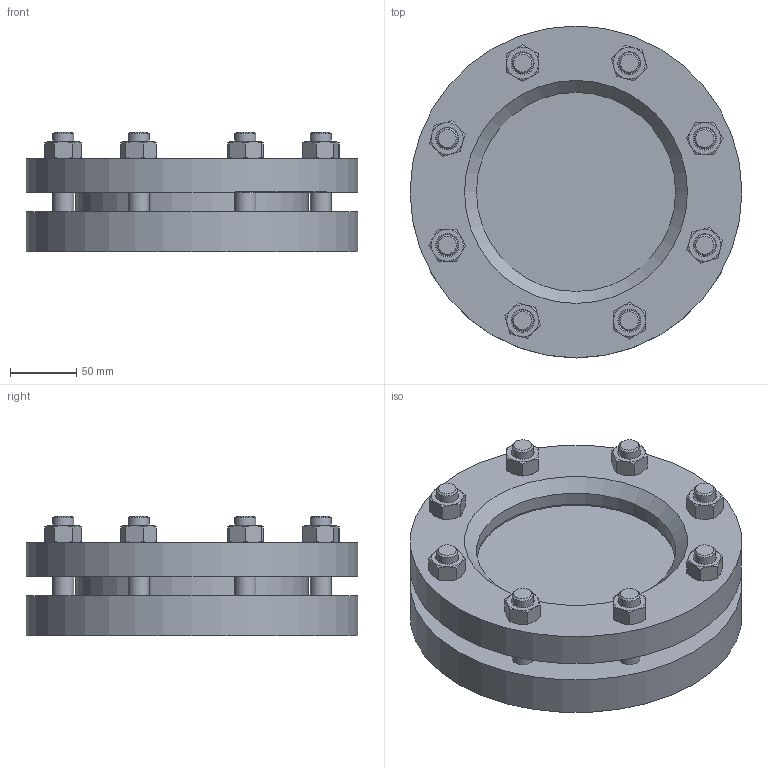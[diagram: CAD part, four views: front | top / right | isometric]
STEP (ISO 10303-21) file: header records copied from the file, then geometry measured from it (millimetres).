
FILE_DESCRIPTION(/* description */ ('Unknown'),/* implementation_level */ '2;1');
FILE_NAME(/* name */ 'Armatur 28120 DN 125 PN16',/* time_stamp */ '2016-08-08T07:28:45+02:00',/* author */ ('Unknown'),/* organization */ ('Unknown'),/* preprocessor_version */ 'ST-DEVELOPER v16.7',/* originating_system */ 'DEX',/* authorisation */ $);
FILE_SCHEMA (('AUTOMOTIVE_DESIGN {1 0 10303 214 3 1 1}'));
Length unit declared in the file: millimetre
Products named in the file (7): 0206.314.38_01; 1345.004.38_01; 0863.178.38_01; 1775.148.38_01; 1346.304.38_01; Stud_DIN_938_1995_CC_M16x60_v12.00; Nut_DIN_934_1987_M16_v10.50
Assembly tree (21 placements, depth 2):
  0206.314.38_01
    1345.004.38_01
    0863.178.38_01  x2
    1775.148.38_01
    1346.304.38_01
    Stud_DIN_938_1995_CC_M16x60_v12.00  x8
    Nut_DIN_934_1987_M16_v10.50  x8
Bounding box: 250 x 250 x 90 mm (x, y, z)
Volume: 2263310.1 mm3; surface area: 347791.7 mm2
Topology: 21 solids, 21 shells, 251 faces, 528 edges, 321 vertices
Faces by surface type: plane 92, cone 92, cylinder 67
Full cylindrical faces by diameter (mm): 13.835 x24, 16 x24, 18 x8, 150 x4, 175 x1, 177 x2, 178 x2, 250 x2
Entity records: 2794 total; most frequent: CARTESIAN_POINT 651, DIRECTION 364, ORIENTED_EDGE 192, AXIS2_PLACEMENT_3D 179, FACE_BOUND 172, EDGE_LOOP 164, VERTEX_POINT 98, EDGE_CURVE 96
